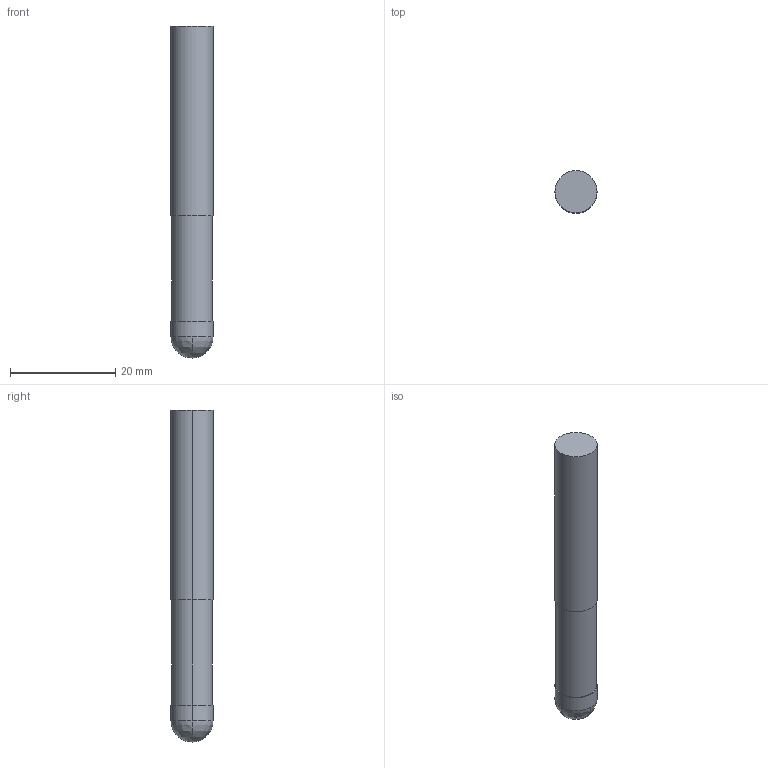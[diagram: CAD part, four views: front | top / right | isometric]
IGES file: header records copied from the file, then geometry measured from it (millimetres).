
Start section: 3D InterOp IGES (v. 2020 1.0.1), Spatial Corp. Copyright (c) 1999-2017.
Global section: file name: WZF18518_8.igs; native system: Spatial Corp.; preprocessor: 3D InterOp GENERIC/IGES 3.0; author: Noname; organization: Noname; date: 20201007.093025; units: metre
Bounding box: 8 x 8 x 62.99 mm (x, y, z)
Surface area: 1621.9 mm2 (no closed solid volume)
Topology: 0 solids, 0 shells, 13 faces, 52 edges, 48 vertices
Faces by surface type: revolution 10, extrusion 3
